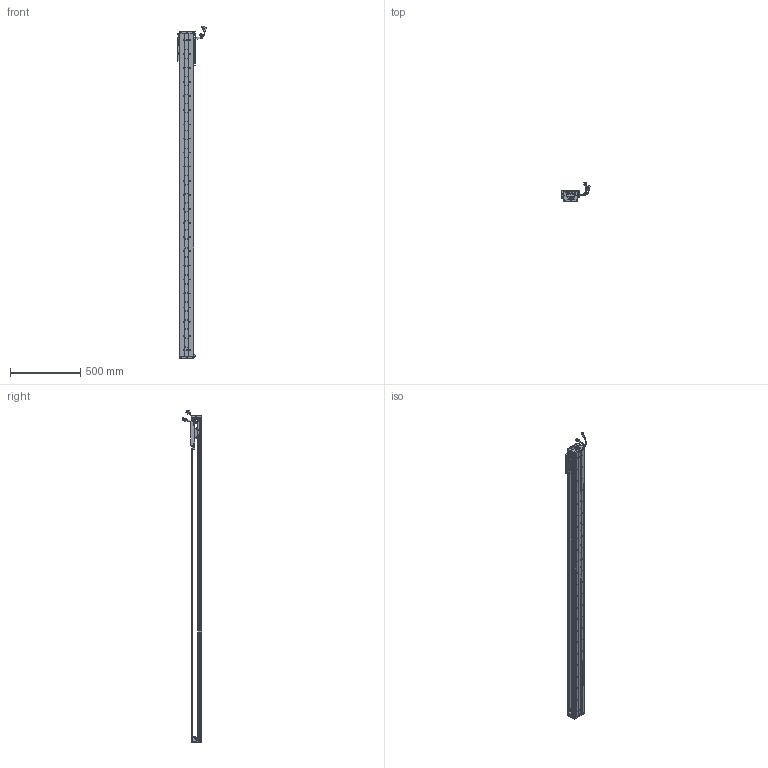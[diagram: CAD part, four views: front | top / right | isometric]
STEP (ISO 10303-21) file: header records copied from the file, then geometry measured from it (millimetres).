
FILE_DESCRIPTION (( 'STEP AP203' ), '1' );
FILE_NAME ('Z2-RY100D-1-L500-B-K.SLDASM_2050.step', '2021-05-17T02:37:16', ( '盈信电脑' ), ( '东莞市道滘镇水果街19号' ), 'SwSTEP 2.0', 'SolidWorks 2016', '' );
FILE_SCHEMA (( 'CONFIG_CONTROL_DESIGN' ));
Length unit declared in the file: millimetre
Products named in the file (36): Z-100詩湍傷裔啣; 140蚥薯蝶輸; PBU_SHEET; COVER-Part-1; Z2-RY100D-500-倰第菁釱_2050; SCALE; 140雄赽晤鎢ん堤盄; 覜茼ん672; Z-RY100D詩湍狟揤裔; 100-Z-臏賑輸盄裔(21遴); 080黍杅芛假蚾釱21遴; LABEL; COVER; SCREW-M1.6; SEAL; HARNESS-Part-2; SCALE-Part-2; SCREW-M1.6-2; SCREW-M1.7-1; Z-RY100D詩湍奻揤裔; 榋妏寠巭燃_暯_M2_2; Z2-RY100铝滑块（21款）; SCALE-Part-1; SCREW-M1.7; SHIELDPLATE; HOLDER0; Z-RY100D覜茼んえ; SCREW-M1.6-1; SCREW-M1.6-3; Z2-RY100-L500詩湍90mm遵_2050; PSLH080_PSLF2; LABEL-Part-1; HARNESS; HARNESS-Part-1; SEAL-Part-1; Z2-RY100D-1-L500-B-K.SLDASM_2050
Assembly tree (43 placements, depth 4):
  Z2-RY100D-1-L500-B-K.SLDASM_2050
    Z2-RY100D-500-倰第菁釱_2050
    Z2-RY100铝滑块（21款）
    PSLH080_PSLF2
      SCALE
        SCALE-Part-1
        SCALE-Part-2
      HARNESS
        HARNESS-Part-1
        HARNESS-Part-2
      LABEL
        LABEL-Part-1
      COVER
        COVER-Part-1
      SEAL
        SEAL-Part-1
      榋妏寠巭燃_暯_M2_2
      SHIELDPLATE
      SCREW-M1.7
      SCREW-M1.7-1
      PBU_SHEET
      SCREW-M1.6
      SCREW-M1.6-1
      SCREW-M1.6-2
      SCREW-M1.6-3
      HOLDER0
    080黍杅芛假蚾釱21遴
    Z-100詩湍傷裔啣  x2
    140蚥薯蝶輸  x2
    覜茼ん672  x3
    Z-RY100D覜茼んえ  x3
    100-Z-臏賑輸盄裔(21遴)
    140雄赽晤鎢ん堤盄
    Z2-RY100-L500詩湍90mm遵_2050
    Z-RY100D詩湍狟揤裔  x2
    Z-RY100D詩湍奻揤裔  x2
Bounding box: 205.84 x 136.11 x 2355.43 mm (x, y, z)
Volume: 4289750.7 mm3; surface area: 1698633.1 mm2
Topology: 38 solids, 38 shells, 2900 faces, 7869 edges, 5020 vertices
Faces by surface type: cylinder 1390, plane 1170, cone 218, torus 69, bspline 53
Entity records: 83081 total; most frequent: CARTESIAN_POINT 17456, DIRECTION 13333, ORIENTED_EDGE 12634, EDGE_CURVE 6317, AXIS2_PLACEMENT_3D 4989, VERTEX_POINT 4088, LINE 3355, VECTOR 3355
